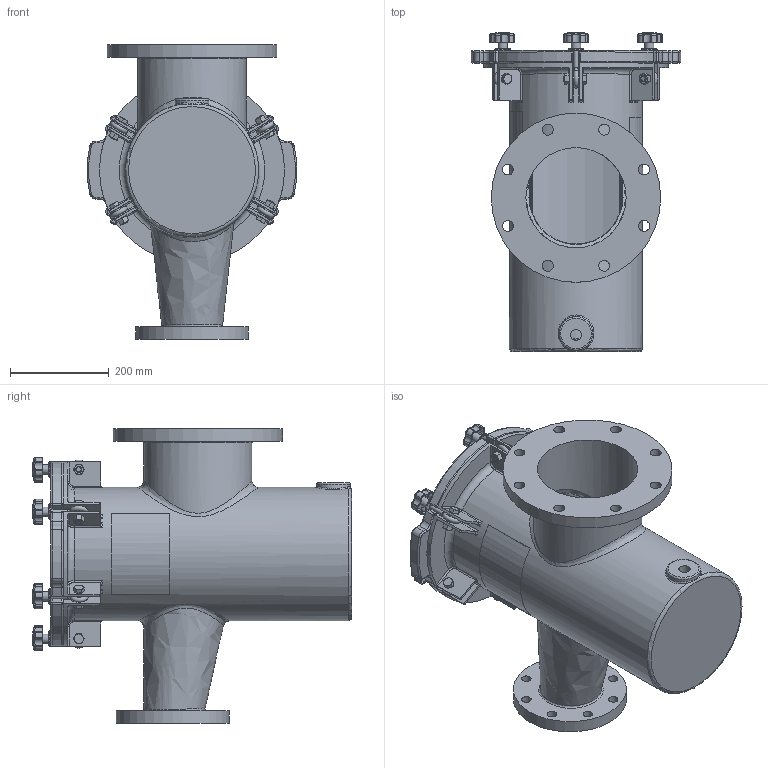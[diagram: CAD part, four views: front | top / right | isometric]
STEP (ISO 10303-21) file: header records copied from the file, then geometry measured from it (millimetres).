
FILE_DESCRIPTION(/* description */ ('STRAINER BODY'),/* implementation_level */ '2;1');
FILE_NAME(/* name */ '\\chntshnas1\IP_PUMPS\NeptuneBenson\Project Execution\WIP\Ready for delivery - Do not Disturb -Updated with metric Flange\Workspace\FG Reducing Strainer\150NBFG84ER1.stp',/* time_stamp */ '2016-10-19T11:55:45+05:00',/* author */ ('20076253'),/* organization */ (''),/* preprocessor_version */ 'ST-DEVELOPER v16.1',/* originating_system */ 'Autodesk Inventor 2016',/* authorisation */ '');
FILE_SCHEMA (('AUTOMOTIVE_DESIGN { 1 0 10303 214 3 1 1 }'));
Length unit declared in the file: inch
Products named in the file (18): NBFG84EBODYR1; 150NBCVR48R1; 150NBGSK48R1; Perforated Basket 10in; Bride (Ring) 10in; Baffle 10in; Handle 10in; Bottom Strainer 10in; NBBSK08T316; Nut- 1_2  UNC; Bolt-1_2 x 1 1_2  UNC; EyeBolt; Washer; Knob M10; Securing Assembly For FG without Brace; Label for 10.625 inch (Right); Label for 10.625 inch (Left); Guardian FG Reducing H&L Strainer (Inch)
Assembly tree (22 placements, depth 3):
  Guardian FG Reducing H&L Strainer (Inch)
    NBFG84EBODYR1
    150NBCVR48R1
    150NBGSK48R1
    NBBSK08T316
      Perforated Basket 10in
      Bride (Ring) 10in
      Baffle 10in
      Handle 10in
      Bottom Strainer 10in
    Securing Assembly For FG without Brace  x6
      Nut- 1_2  UNC
      Bolt-1_2 x 1 1_2  UNC
      EyeBolt
      Washer
      Knob M10
    Label for 10.625 inch (Right)
    Label for 10.625 inch (Left)
Bounding box: 424.18 x 646.2 x 596.9 mm (x, y, z)
Volume: 11817473.7 mm3; surface area: 2850506.9 mm2
Topology: 40 solids, 40 shells, 1268 faces, 2910 edges, 1721 vertices
Faces by surface type: cylinder 462, plane 330, cone 138, torus 124, bspline 112, sphere 102
Full cylindrical faces by diameter (mm): 3.175 x10, 6.35 x2, 8.382 x6, 9.525 x12, 10.592 x6, 12.7 x6, 15.875 x12, 19 x12, 19.05 x14, 22.225 x8, 22.809 x1, 31.75 x6, 68.263 x1, 187.325 x2, 190.5 x1, 203.2 x1, 219.075 x1, 228.6 x1, 254 x2, 266.7 x1, 269.875 x1, 276.225 x1, 311.15 x1, 317.5 x1, 342.9 x1
Entity records: 26131 total; most frequent: CARTESIAN_POINT 10207, DIRECTION 3288, ORIENTED_EDGE 2994, EDGE_CURVE 1497, AXIS2_PLACEMENT_3D 1388, VERTEX_POINT 949, EDGE_LOOP 854, CIRCLE 701
